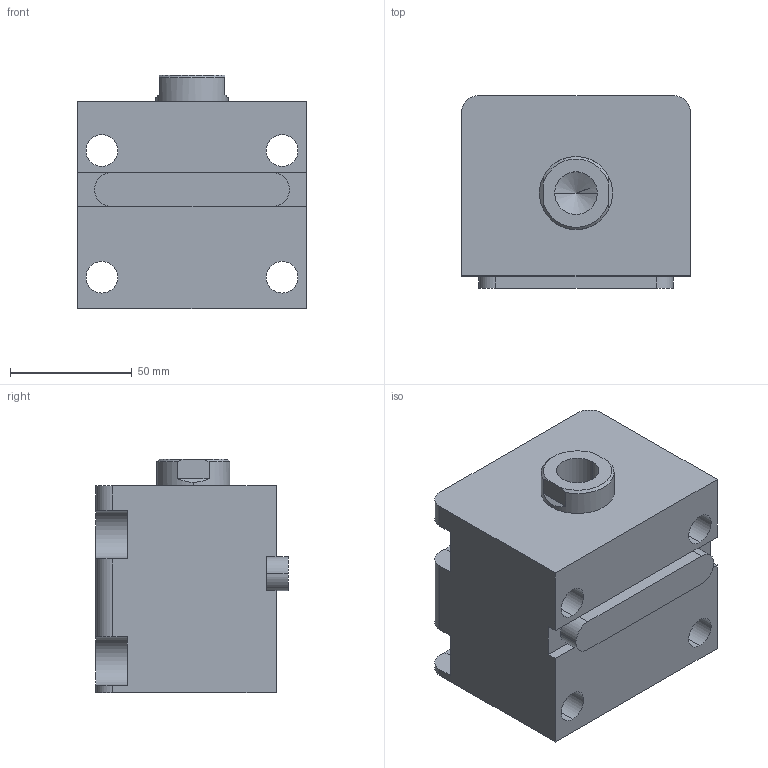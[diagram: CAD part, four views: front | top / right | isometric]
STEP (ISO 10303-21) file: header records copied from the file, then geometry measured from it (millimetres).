
FILE_DESCRIPTION (( 'STEP AP203' ), '1' );
FILE_NAME ('HTB-LA50-25N.STEP', '2019-10-09T07:07:53', ( '微软用户' ), ( '微软中国' ), 'SwSTEP 2.0', 'SolidWorks 2012', '' );
FILE_SCHEMA (( 'CONFIG_CONTROL_DESIGN' ));
Length unit declared in the file: millimetre
Products named in the file (4): HTB-LA50-25掛极; HTB-LA50-25N活塞杆; HTB-LA50-瑩; HTB-LA50-25N
Assembly tree (3 placements, depth 2):
  HTB-LA50-25N
    HTB-LA50-25掛极
    HTB-LA50-25N活塞杆
    HTB-LA50-瑩
Bounding box: 94 x 79 x 96 mm (x, y, z)
Volume: 510848.2 mm3; surface area: 84831.4 mm2
Topology: 3 solids, 3 shells, 86 faces, 213 edges, 139 vertices
Faces by surface type: plane 39, cylinder 35, cone 8, torus 4
Entity records: 3001 total; most frequent: DIRECTION 475, CARTESIAN_POINT 470, ORIENTED_EDGE 422, EDGE_CURVE 211, AXIS2_PLACEMENT_3D 180, VERTEX_POINT 139, LINE 115, VECTOR 115
